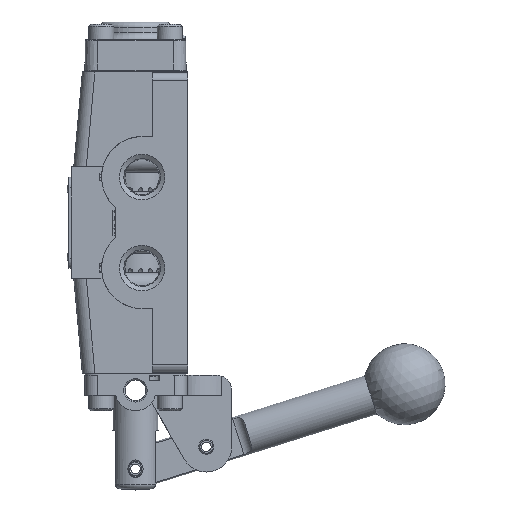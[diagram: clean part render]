
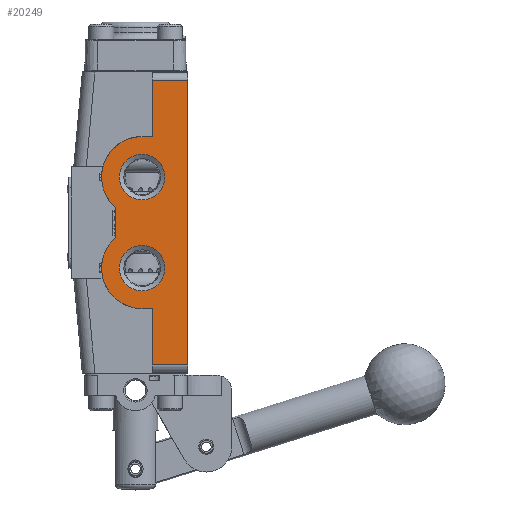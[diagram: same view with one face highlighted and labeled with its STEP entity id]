
A CAD part, left-side view. The second image highlights one B-rep face of the part: STEP entity #20249.
In plain terms, the highlighted planar face has unit normal (-1, 0, 0).
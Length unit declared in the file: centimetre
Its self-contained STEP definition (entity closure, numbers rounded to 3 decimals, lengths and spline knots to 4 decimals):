
#859=PLANE('',#22180);
#1118=FACE_BOUND('',#3570,.T.);
#1119=FACE_BOUND('',#3571,.T.);
#2359=FACE_OUTER_BOUND('',#3569,.T.);
#3569=EDGE_LOOP('',(#16014,#16015,#16016,#16017,#16018,#16019,#16020,#16021,
#16022,#16023));
#3570=EDGE_LOOP('',(#16024));
#3571=EDGE_LOOP('',(#16025));
#4669=LINE('',#34299,#5942);
#4879=LINE('',#36786,#6152);
#4880=LINE('',#36788,#6153);
#4881=LINE('',#36790,#6154);
#4882=LINE('',#36792,#6155);
#4883=LINE('',#36794,#6156);
#4884=LINE('',#36795,#6157);
#4885=LINE('',#36796,#6158);
#5942=VECTOR('',#25840,1.);
#6152=VECTOR('',#26616,1.);
#6153=VECTOR('',#26617,1.);
#6154=VECTOR('',#26618,1.);
#6155=VECTOR('',#26619,1.);
#6156=VECTOR('',#26620,1.);
#6157=VECTOR('',#26621,1.);
#6158=VECTOR('',#26622,1.);
#7270=CIRCLE('',#21936,1.27);
#7283=CIRCLE('',#21962,1.27);
#7355=CIRCLE('',#22178,0.7137);
#7357=CIRCLE('',#22181,0.7137);
#8638=VERTEX_POINT('',#34296);
#8639=VERTEX_POINT('',#34298);
#8663=VERTEX_POINT('',#34374);
#8713=VERTEX_POINT('',#34974);
#8949=VERTEX_POINT('',#36778);
#8951=VERTEX_POINT('',#36784);
#8952=VERTEX_POINT('',#36785);
#8953=VERTEX_POINT('',#36787);
#8954=VERTEX_POINT('',#36789);
#8955=VERTEX_POINT('',#36791);
#8956=VERTEX_POINT('',#36793);
#8957=VERTEX_POINT('',#36797);
#11014=EDGE_CURVE('',#8638,#8639,#4669,.T.);
#11052=EDGE_CURVE('',#8663,#8638,#7270,.T.);
#11126=EDGE_CURVE('',#8639,#8713,#7283,.T.);
#11481=EDGE_CURVE('',#8949,#8949,#7355,.T.);
#11484=EDGE_CURVE('',#8951,#8952,#4879,.T.);
#11485=EDGE_CURVE('',#8953,#8951,#4880,.T.);
#11486=EDGE_CURVE('',#8953,#8954,#4881,.T.);
#11487=EDGE_CURVE('',#8954,#8955,#4882,.T.);
#11488=EDGE_CURVE('',#8956,#8955,#4883,.T.);
#11489=EDGE_CURVE('',#8713,#8956,#4884,.T.);
#11490=EDGE_CURVE('',#8952,#8663,#4885,.T.);
#11491=EDGE_CURVE('',#8957,#8957,#7357,.T.);
#16014=ORIENTED_EDGE('',*,*,#11484,.F.);
#16015=ORIENTED_EDGE('',*,*,#11485,.F.);
#16016=ORIENTED_EDGE('',*,*,#11486,.T.);
#16017=ORIENTED_EDGE('',*,*,#11487,.T.);
#16018=ORIENTED_EDGE('',*,*,#11488,.F.);
#16019=ORIENTED_EDGE('',*,*,#11489,.F.);
#16020=ORIENTED_EDGE('',*,*,#11126,.F.);
#16021=ORIENTED_EDGE('',*,*,#11014,.F.);
#16022=ORIENTED_EDGE('',*,*,#11052,.F.);
#16023=ORIENTED_EDGE('',*,*,#11490,.F.);
#16024=ORIENTED_EDGE('',*,*,#11491,.F.);
#16025=ORIENTED_EDGE('',*,*,#11481,.F.);
#20249=ADVANCED_FACE('',(#2359,#1118,#1119),#859,.T.);
#21936=AXIS2_PLACEMENT_3D('',#34376,#25931,#25932);
#21962=AXIS2_PLACEMENT_3D('',#34975,#26015,#26016);
#22178=AXIS2_PLACEMENT_3D('',#36779,#26609,#26610);
#22180=AXIS2_PLACEMENT_3D('',#36783,#26614,#26615);
#22181=AXIS2_PLACEMENT_3D('',#36798,#26623,#26624);
#25840=DIRECTION('',(0.,0.,1.));
#25931=DIRECTION('center_axis',(1.,0.,0.));
#25932=DIRECTION('ref_axis',(0.,0.,1.));
#26015=DIRECTION('center_axis',(1.,0.,0.));
#26016=DIRECTION('ref_axis',(0.,-0.663,0.749));
#26609=DIRECTION('center_axis',(-1.,0.,0.));
#26610=DIRECTION('ref_axis',(0.,1.,0.));
#26614=DIRECTION('center_axis',(-1.,0.,0.));
#26615=DIRECTION('ref_axis',(0.,0.,1.));
#26616=DIRECTION('',(0.,0.,1.));
#26617=DIRECTION('',(0.,1.,0.));
#26618=DIRECTION('',(0.,0.,1.));
#26619=DIRECTION('',(0.,1.,0.));
#26620=DIRECTION('',(0.,0.,1.));
#26621=DIRECTION('',(0.,-1.,0.));
#26622=DIRECTION('',(0.,1.,0.));
#26623=DIRECTION('center_axis',(-1.,0.,0.));
#26624=DIRECTION('ref_axis',(0.,1.,0.));
#34296=CARTESIAN_POINT('',(-2.8575,0.6332,-0.4763));
#34298=CARTESIAN_POINT('',(-2.8575,0.6332,0.4763));
#34299=CARTESIAN_POINT('',(-2.8575,0.6332,0.2381));
#34374=CARTESIAN_POINT('',(-2.8575,-0.2083,-2.6975));
#34376=CARTESIAN_POINT('Origin',(-2.8575,-0.2083,-1.4275));
#34974=CARTESIAN_POINT('',(-2.8575,-0.2083,2.6975));
#34975=CARTESIAN_POINT('Origin',(-2.8575,-0.2083,1.4275));
#36778=CARTESIAN_POINT('',(-2.8575,-0.922,1.4275));
#36779=CARTESIAN_POINT('Origin',(-2.8575,-0.2083,1.4275));
#36783=CARTESIAN_POINT('Origin',(-2.8575,-1.6358,-4.4602));
#36784=CARTESIAN_POINT('',(-2.8575,-0.5245,-4.4602));
#36785=CARTESIAN_POINT('',(-2.8575,-0.5245,-2.6975));
#36786=CARTESIAN_POINT('',(-2.8575,-0.5245,-4.4602));
#36787=CARTESIAN_POINT('',(-2.8575,-1.6358,-4.4602));
#36788=CARTESIAN_POINT('',(-2.8575,-1.6358,-4.4602));
#36789=CARTESIAN_POINT('',(-2.8575,-1.6358,4.4602));
#36790=CARTESIAN_POINT('',(-2.8575,-1.6358,-4.4602));
#36791=CARTESIAN_POINT('',(-2.8575,-0.5245,4.4602));
#36792=CARTESIAN_POINT('',(-2.8575,-1.6358,4.4602));
#36793=CARTESIAN_POINT('',(-2.8575,-0.5245,2.6975));
#36794=CARTESIAN_POINT('',(-2.8575,-0.5245,-4.4602));
#36795=CARTESIAN_POINT('',(-2.8575,-0.9614,2.6975));
#36796=CARTESIAN_POINT('',(-2.8575,-0.2477,-2.6975));
#36797=CARTESIAN_POINT('',(-2.8575,-0.922,-1.4275));
#36798=CARTESIAN_POINT('Origin',(-2.8575,-0.2083,-1.4275));
